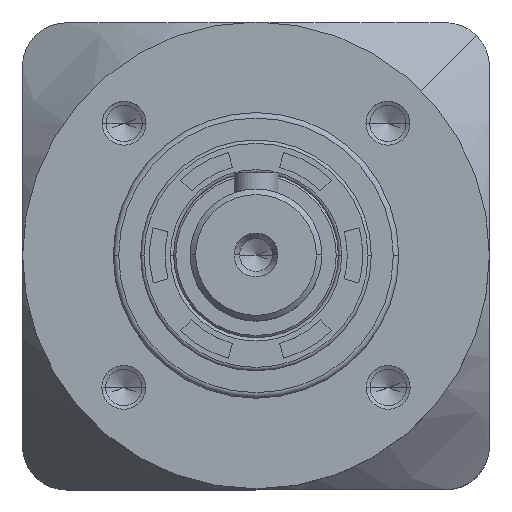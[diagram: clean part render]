
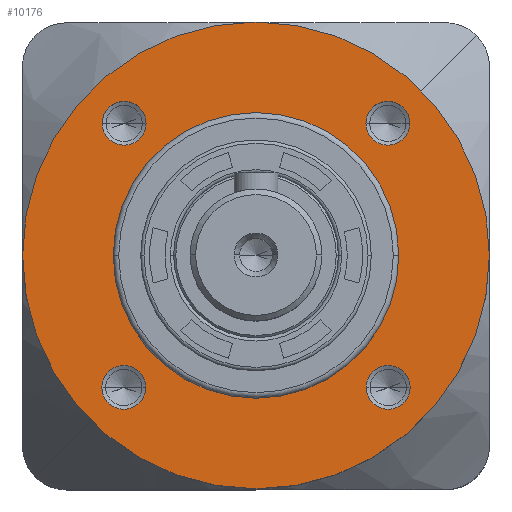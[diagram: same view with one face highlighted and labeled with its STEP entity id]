
A CAD part, top view. The second image highlights one B-rep face of the part: STEP entity #10176.
In plain terms, the highlighted planar face has unit normal (0, 0, 1).
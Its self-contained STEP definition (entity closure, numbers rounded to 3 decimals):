
#20 = CARTESIAN_POINT ( 'NONE',  ( -10.008, 12.033, 11.8 ) ) ;
#818 = CARTESIAN_POINT ( 'NONE',  ( 14.033, -12.008, 11.8 ) ) ;
#971 = EDGE_CURVE ( 'NONE', #15841, #14197, #13565, .T. ) ;
#1006 = CARTESIAN_POINT ( 'NONE',  ( -12.033, -12.008, 11.8 ) ) ;
#1181 = AXIS2_PLACEMENT_3D ( 'NONE', #21219, #3474, #13374 ) ;
#1214 = VERTEX_POINT ( 'NONE', #17947 ) ;
#1261 = AXIS2_PLACEMENT_3D ( 'NONE', #4077, #17544, #19271 ) ;
#1287 = CARTESIAN_POINT ( 'NONE',  ( -13., 0., 11.8 ) ) ;
#1789 = DIRECTION ( 'NONE',  ( 1., 0., 0. ) ) ;
#1879 = EDGE_LOOP ( 'NONE', ( #5777, #18763 ) ) ;
#2104 = EDGE_LOOP ( 'NONE', ( #10366, #23147 ) ) ;
#2777 = CIRCLE ( 'NONE', #9385, 13. ) ;
#2903 = FACE_BOUND ( 'NONE', #1879, .T. ) ;
#2980 = DIRECTION ( 'NONE',  ( 0., 0., 1. ) ) ;
#3316 = CIRCLE ( 'NONE', #3460, 2. ) ;
#3460 = AXIS2_PLACEMENT_3D ( 'NONE', #8156, #6296, #16124 ) ;
#3474 = DIRECTION ( 'NONE',  ( 0., 0., 1. ) ) ;
#3881 = VERTEX_POINT ( 'NONE', #8737 ) ;
#4077 = CARTESIAN_POINT ( 'NONE',  ( 12.008, 12.033, 11.8 ) ) ;
#4205 = EDGE_CURVE ( 'NONE', #1214, #19754, #3316, .T. ) ;
#4388 = CARTESIAN_POINT ( 'NONE',  ( 12.008, 12.033, 11.8 ) ) ;
#4577 = VERTEX_POINT ( 'NONE', #818 ) ;
#4890 = ORIENTED_EDGE ( 'NONE', *, *, #6287, .F. ) ;
#4934 = DIRECTION ( 'NONE',  ( 1., 0., 0. ) ) ;
#5330 = CARTESIAN_POINT ( 'NONE',  ( 0., 0., 11.8 ) ) ;
#5522 = AXIS2_PLACEMENT_3D ( 'NONE', #25129, #9808, #5906 ) ;
#5534 = CIRCLE ( 'NONE', #7603, 13. ) ;
#5605 = CARTESIAN_POINT ( 'NONE',  ( 0., 0., 11.8 ) ) ;
#5777 = ORIENTED_EDGE ( 'NONE', *, *, #20144, .F. ) ;
#5787 = CARTESIAN_POINT ( 'NONE',  ( 12.033, -12.008, 11.8 ) ) ;
#5836 = ORIENTED_EDGE ( 'NONE', *, *, #8563, .F. ) ;
#5906 = DIRECTION ( 'NONE',  ( 1., 0., 0. ) ) ;
#6146 = PLANE ( 'NONE',  #11930 ) ;
#6229 = CARTESIAN_POINT ( 'NONE',  ( 13., 0., 11.8 ) ) ;
#6287 = EDGE_CURVE ( 'NONE', #14197, #15841, #7199, .T. ) ;
#6296 = DIRECTION ( 'NONE',  ( 0., 0., 1. ) ) ;
#6828 = CARTESIAN_POINT ( 'NONE',  ( 0., 0., 11.8 ) ) ;
#6869 = EDGE_CURVE ( 'NONE', #3881, #4577, #23817, .T. ) ;
#7004 = CIRCLE ( 'NONE', #21671, 2. ) ;
#7199 = CIRCLE ( 'NONE', #19222, 2. ) ;
#7503 = CIRCLE ( 'NONE', #12569, 2. ) ;
#7603 = AXIS2_PLACEMENT_3D ( 'NONE', #24646, #13058, #8828 ) ;
#7703 = ORIENTED_EDGE ( 'NONE', *, *, #15128, .T. ) ;
#8034 = AXIS2_PLACEMENT_3D ( 'NONE', #5605, #22933, #22858 ) ;
#8116 = DIRECTION ( 'NONE',  ( 1., 0., 0. ) ) ;
#8156 = CARTESIAN_POINT ( 'NONE',  ( -12.008, 12.033, 11.8 ) ) ;
#8387 = DIRECTION ( 'NONE',  ( 1., 0., 0. ) ) ;
#8563 = EDGE_CURVE ( 'NONE', #9461, #20926, #7503, .T. ) ;
#8737 = CARTESIAN_POINT ( 'NONE',  ( 10.033, -12.008, 11.8 ) ) ;
#8828 = DIRECTION ( 'NONE',  ( 1., 0., 0. ) ) ;
#9074 = CARTESIAN_POINT ( 'NONE',  ( -10.033, -12.008, 11.8 ) ) ;
#9110 = EDGE_LOOP ( 'NONE', ( #16585, #9367 ) ) ;
#9367 = ORIENTED_EDGE ( 'NONE', *, *, #19168, .F. ) ;
#9385 = AXIS2_PLACEMENT_3D ( 'NONE', #5330, #18879, #10999 ) ;
#9461 = VERTEX_POINT ( 'NONE', #9074 ) ;
#9466 = DIRECTION ( 'NONE',  ( 1., 0., 0. ) ) ;
#9646 = AXIS2_PLACEMENT_3D ( 'NONE', #21725, #18039, #8387 ) ;
#9756 = CIRCLE ( 'NONE', #8034, 21.25 ) ;
#9808 = DIRECTION ( 'NONE',  ( 0., 0., 1. ) ) ;
#9950 = ORIENTED_EDGE ( 'NONE', *, *, #16245, .T. ) ;
#10176 = ADVANCED_FACE ( 'NONE', ( #21368, #18684, #23479, #2903, #20775, #16860 ), #6146, .T. ) ;
#10366 = ORIENTED_EDGE ( 'NONE', *, *, #13486, .F. ) ;
#10393 = DIRECTION ( 'NONE',  ( 1., 0., 0. ) ) ;
#10847 = CIRCLE ( 'NONE', #21795, 21.25 ) ;
#10999 = DIRECTION ( 'NONE',  ( 1., 0., 0. ) ) ;
#11930 = AXIS2_PLACEMENT_3D ( 'NONE', #6828, #18267, #10393 ) ;
#12402 = CARTESIAN_POINT ( 'NONE',  ( 10.008, 12.033, 11.8 ) ) ;
#12569 = AXIS2_PLACEMENT_3D ( 'NONE', #1006, #2980, #4934 ) ;
#12801 = EDGE_LOOP ( 'NONE', ( #21827, #4890 ) ) ;
#13058 = DIRECTION ( 'NONE',  ( 0., 0., 1. ) ) ;
#13374 = DIRECTION ( 'NONE',  ( 1., 0., 0. ) ) ;
#13486 = EDGE_CURVE ( 'NONE', #19754, #1214, #22817, .T. ) ;
#13565 = CIRCLE ( 'NONE', #1261, 2. ) ;
#14197 = VERTEX_POINT ( 'NONE', #12402 ) ;
#15128 = EDGE_CURVE ( 'NONE', #16484, #16534, #9756, .T. ) ;
#15142 = DIRECTION ( 'NONE',  ( 0., 0., 1. ) ) ;
#15211 = DIRECTION ( 'NONE',  ( 0., 0., 1. ) ) ;
#15548 = CARTESIAN_POINT ( 'NONE',  ( 21.25, 0., 11.8 ) ) ;
#15695 = CARTESIAN_POINT ( 'NONE',  ( -21.25, 0., 11.8 ) ) ;
#15841 = VERTEX_POINT ( 'NONE', #21769 ) ;
#16124 = DIRECTION ( 'NONE',  ( 1., 0., 0. ) ) ;
#16245 = EDGE_CURVE ( 'NONE', #16534, #16484, #10847, .T. ) ;
#16484 = VERTEX_POINT ( 'NONE', #15548 ) ;
#16534 = VERTEX_POINT ( 'NONE', #15695 ) ;
#16585 = ORIENTED_EDGE ( 'NONE', *, *, #18381, .F. ) ;
#16860 = FACE_OUTER_BOUND ( 'NONE', #18274, .T. ) ;
#17539 = CARTESIAN_POINT ( 'NONE',  ( -14.033, -12.008, 11.8 ) ) ;
#17544 = DIRECTION ( 'NONE',  ( 0., 0., 1. ) ) ;
#17598 = ORIENTED_EDGE ( 'NONE', *, *, #21392, .F. ) ;
#17859 = CIRCLE ( 'NONE', #5522, 2. ) ;
#17947 = CARTESIAN_POINT ( 'NONE',  ( -14.008, 12.033, 11.8 ) ) ;
#18039 = DIRECTION ( 'NONE',  ( 0., 0., 1. ) ) ;
#18267 = DIRECTION ( 'NONE',  ( 0., 0., 1. ) ) ;
#18274 = EDGE_LOOP ( 'NONE', ( #7703, #9950 ) ) ;
#18381 = EDGE_CURVE ( 'NONE', #19992, #19708, #5534, .T. ) ;
#18684 = FACE_BOUND ( 'NONE', #2104, .T. ) ;
#18763 = ORIENTED_EDGE ( 'NONE', *, *, #6869, .F. ) ;
#18879 = DIRECTION ( 'NONE',  ( 0., 0., 1. ) ) ;
#19168 = EDGE_CURVE ( 'NONE', #19708, #19992, #2777, .T. ) ;
#19222 = AXIS2_PLACEMENT_3D ( 'NONE', #4388, #21798, #8116 ) ;
#19271 = DIRECTION ( 'NONE',  ( 1., 0., 0. ) ) ;
#19626 = CARTESIAN_POINT ( 'NONE',  ( 0., 0., 11.8 ) ) ;
#19708 = VERTEX_POINT ( 'NONE', #6229 ) ;
#19754 = VERTEX_POINT ( 'NONE', #20 ) ;
#19992 = VERTEX_POINT ( 'NONE', #1287 ) ;
#20144 = EDGE_CURVE ( 'NONE', #4577, #3881, #7004, .T. ) ;
#20775 = FACE_BOUND ( 'NONE', #9110, .T. ) ;
#20926 = VERTEX_POINT ( 'NONE', #17539 ) ;
#21219 = CARTESIAN_POINT ( 'NONE',  ( -12.008, 12.033, 11.8 ) ) ;
#21368 = FACE_BOUND ( 'NONE', #12801, .T. ) ;
#21392 = EDGE_CURVE ( 'NONE', #20926, #9461, #17859, .T. ) ;
#21671 = AXIS2_PLACEMENT_3D ( 'NONE', #5787, #15211, #1789 ) ;
#21725 = CARTESIAN_POINT ( 'NONE',  ( 12.033, -12.008, 11.8 ) ) ;
#21769 = CARTESIAN_POINT ( 'NONE',  ( 14.008, 12.033, 11.8 ) ) ;
#21795 = AXIS2_PLACEMENT_3D ( 'NONE', #19626, #15142, #9466 ) ;
#21798 = DIRECTION ( 'NONE',  ( 0., 0., 1. ) ) ;
#21827 = ORIENTED_EDGE ( 'NONE', *, *, #971, .F. ) ;
#22802 = EDGE_LOOP ( 'NONE', ( #5836, #17598 ) ) ;
#22817 = CIRCLE ( 'NONE', #1181, 2. ) ;
#22858 = DIRECTION ( 'NONE',  ( 1., 0., 0. ) ) ;
#22933 = DIRECTION ( 'NONE',  ( 0., 0., 1. ) ) ;
#23147 = ORIENTED_EDGE ( 'NONE', *, *, #4205, .F. ) ;
#23479 = FACE_BOUND ( 'NONE', #22802, .T. ) ;
#23817 = CIRCLE ( 'NONE', #9646, 2. ) ;
#24646 = CARTESIAN_POINT ( 'NONE',  ( 0., 0., 11.8 ) ) ;
#25129 = CARTESIAN_POINT ( 'NONE',  ( -12.033, -12.008, 11.8 ) ) ;
